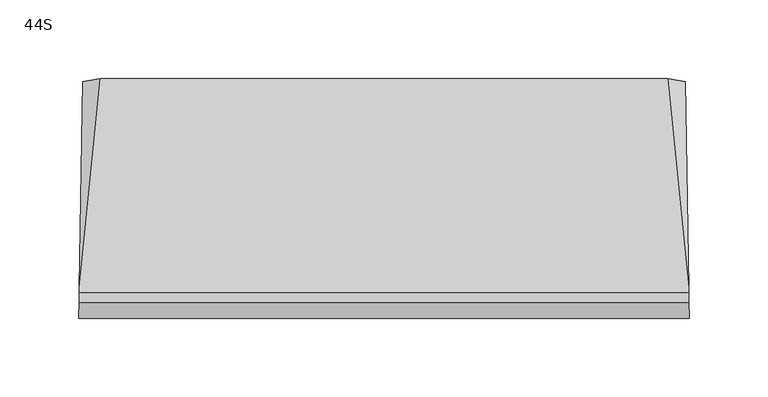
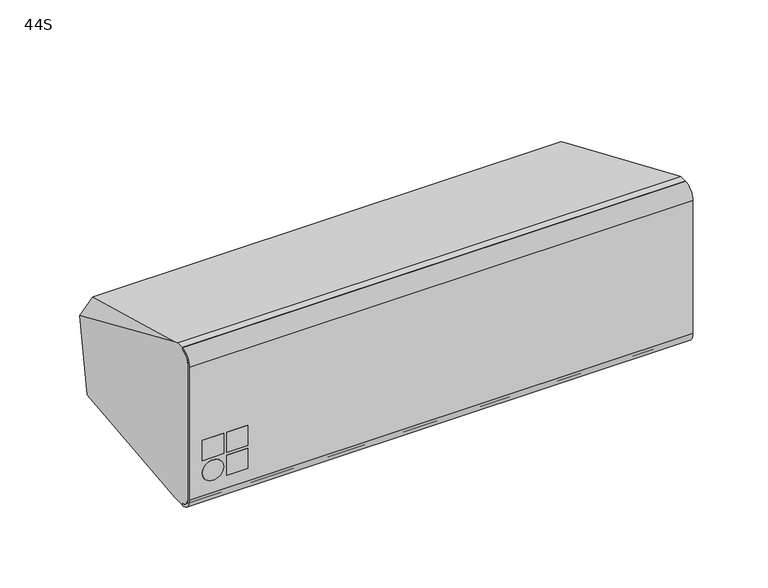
"""IFC4 building model written with IfcOpenShell, lengths in millimetres: proxy geometry, d&b xS-Series 44S Point Source : 44S."""

from ifc_helpers import new_model, si_unit, point, frame, frame_2d, origin, place, context, project, spatial, polyline, circle_curve, ellipse_curve, trimmed, segment, composite_curve, outline, extrude, source, transform, mapped, element, save
from ifc_brep_helpers import plane_surface, cylinder_surface, revolved_surface, advanced_brep


def proxy_44s_7d33e236(model_context):
    return source(origin(), model_context, "Body", "SolidModel", [
        advanced_brep(
        [(-193.2924342, -66.0, -64.0), (-193.2924342, -66.0, -62.0435242), (-193.4294708, -73.9650952, -54.078429), (-193.4294708, -73.9650952, 54.0), (-193.2918337, -65.9650952, 62.0), (-193.2918337, -65.9650952, 64.0), (-193.1898069, -60.0349048, 64.0), (-193.132384, -56.6972655, 62.7855103), (-190.8800877, 74.2148737, 4.3760941), (-191.0574064, 63.9084293, -54.074657), (-193.132384, -56.6972655, -64.0), (193.2924342, -66.0, -62.0435242), (193.2924342, -66.0, -64.0), (193.132384, -56.6972655, -64.0), (191.0574064, 63.9084293, -54.074657), (190.8800877, 74.2148737, 4.3760941), (193.132384, -56.6972655, 62.7855103), (193.1898069, -60.0349048, 64.0), (193.2918337, -65.9650952, 64.0), (193.2918337, -65.9650952, 62.0), (193.4294708, -73.9650952, 54.0), (193.4294708, -73.9650952, -54.078429), (-181.3061997, 62.1583235, -64.0), (181.3061997, 62.1583235, -64.0), (179.9289467, 76.0, 14.5000481), (-179.9289467, 76.0, 14.5000481), (-138.5, 71.3365881, -11.9474751), (-138.5, 66.8217355, -37.5524767), (-128.5, 65.0852537, -47.4005542), (-51.5, 65.0852537, -47.4005542), (-41.5, 66.8217355, -37.5524767), (-41.5, 71.3365881, -11.9474751), (-51.5, 73.0730698, -2.0993976), (-128.5, 73.0730698, -2.0993976), (-138.5, 66.4125493, -11.0792343), (-128.5, 68.1490311, -1.2311567), (-51.5, 68.1490311, -1.2311567), (-41.5, 66.4125493, -11.0792343), (-41.5, 61.8976967, -36.6842358), (-51.5, 60.1612149, -46.5323134), (-128.5, 60.1612149, -46.5323134), (-138.5, 61.8976967, -36.6842358)],
        [
            (0, 1),
            (1, 2, ellipse_curve(frame((-193.2924342, -66.0, -54.078429), z_axis=(-0.999852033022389, 0.017202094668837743, 0.0), x_axis=(-0.01720209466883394, -0.999852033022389, 0.0)), 7.9662739, 7.9650952)),
            (2, 3),
            (3, 4, ellipse_curve(frame((-193.2918337, -65.9650952, 54.0), z_axis=(-0.999852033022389, 0.017202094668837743, 0.0), x_axis=(-0.01720209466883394, -0.999852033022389, 0.0)), 8.0011839, 8.0)),
            (4, 5),
            (5, 6),
            (6, 7),
            (7, 8),
            (8, 9),
            (9, 10),
            (10, 0),
            (11, 12),
            (12, 13),
            (13, 14),
            (14, 15),
            (15, 16),
            (16, 17),
            (17, 18),
            (18, 19),
            (19, 20, ellipse_curve(frame((193.2918337, -65.9650952, 54.0), z_axis=(0.9998520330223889, 0.01720209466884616, 0.0), x_axis=(-0.017202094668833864, 0.999852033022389, 0.0)), 8.0011839, 8.0)),
            (20, 21),
            (21, 11, ellipse_curve(frame((193.2924342, -66.0, -54.078429), z_axis=(0.9998520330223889, 0.01720209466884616, 0.0), x_axis=(-0.017202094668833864, 0.999852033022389, 0.0)), 7.9662739, 7.9650952)),
            (0, 12),
            (11, 1),
            (21, 2),
            (20, 3),
            (19, 4),
            (18, 5),
            (17, 6),
            (10, 22),
            (22, 23),
            (23, 13),
            (16, 24),
            (24, 25),
            (25, 7),
            (9, 22),
            (23, 14),
            (15, 24),
            (25, 8),
            (26, 27),
            (27, 28, circle_curve(frame((-128.5, 66.8217355, -37.5524767), z_axis=(0.0, -0.9848077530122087, 0.17364817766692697), x_axis=(0.0, 0.17364817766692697, 0.9848077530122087)), 10.0)),
            (28, 29),
            (29, 30, circle_curve(frame((-51.5, 66.8217355, -37.5524767), z_axis=(0.0, -0.9848077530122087, 0.17364817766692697), x_axis=(0.0, 0.17364817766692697, 0.9848077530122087)), 10.0)),
            (30, 31),
            (31, 32, circle_curve(frame((-51.5, 71.3365881, -11.9474751), z_axis=(0.0, -0.9848077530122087, 0.17364817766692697), x_axis=(0.0, 0.17364817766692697, 0.9848077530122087)), 10.0)),
            (32, 33),
            (33, 26, circle_curve(frame((-128.5, 71.3365881, -11.9474751), z_axis=(0.0, -0.9848077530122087, 0.17364817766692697), x_axis=(0.0, 0.17364817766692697, 0.9848077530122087)), 10.0)),
            (34, 35, circle_curve(frame((-128.5, 66.4125493, -11.0792343), z_axis=(0.0, 0.9848077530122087, -0.17364817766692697), x_axis=(0.0, 0.17364817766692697, 0.9848077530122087)), 10.0)),
            (35, 36),
            (36, 37, circle_curve(frame((-51.5, 66.4125493, -11.0792343), z_axis=(0.0, 0.9848077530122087, -0.17364817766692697), x_axis=(0.0, 0.17364817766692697, 0.9848077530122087)), 10.0)),
            (37, 38),
            (38, 39, circle_curve(frame((-51.5, 61.8976967, -36.6842358), z_axis=(0.0, 0.9848077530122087, -0.17364817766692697), x_axis=(0.0, 0.17364817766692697, 0.9848077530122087)), 10.0)),
            (39, 40),
            (40, 41, circle_curve(frame((-128.5, 61.8976967, -36.6842358), z_axis=(0.0, 0.9848077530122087, -0.17364817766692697), x_axis=(0.0, 0.17364817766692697, 0.9848077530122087)), 10.0)),
            (41, 34),
            (41, 27),
            (26, 34),
            (40, 28),
            (39, 29),
            (38, 30),
            (37, 31),
            (36, 32),
            (35, 33),
        ],
        [
            plane_surface(frame((-193.8309972, -97.3033587, 100.0), z_axis=(-0.999852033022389, 0.017202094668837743, 0.0), x_axis=(0.0, 0.0, -1.0))),
            plane_surface(frame((190.7119283, 83.9889493, 100.0), z_axis=(0.9998520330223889, 0.01720209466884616, 0.0), x_axis=(0.0, 0.0, -1.0))),
            plane_surface(frame((-207.1452552, -66.0, -64.0), z_axis=(0.0, -1.0, 0.0), x_axis=(1.0, 0.0, 0.0))),
            cylinder_surface(frame((207.1452552, -66.0, -54.078429), z_axis=(-1.0, 0.0, 0.0), x_axis=(0.0, 0.0, -1.0)), 7.9650952),
            plane_surface(frame((-207.1452552, -73.9650952, -54.078429), z_axis=(0.0, -1.0, 0.0), x_axis=(1.0, 0.0, 0.0))),
            cylinder_surface(frame((207.1452552, -65.9650952, 54.0), z_axis=(-1.0, 0.0, 0.0), x_axis=(0.0, 0.0, -1.0)), 8.0),
            plane_surface(frame((-207.1452552, -65.9650952, 62.0), z_axis=(0.0, -1.0, 0.0), x_axis=(1.0, 0.0, 0.0))),
            plane_surface(frame((-207.1452552, -65.9650952, 64.0), z_axis=(0.0, 0.0, 1.0), x_axis=(1.0, 0.0, 0.0))),
            plane_surface(frame((-207.1452552, -60.0349048, -64.0), z_axis=(0.0, 0.0, -1.0), x_axis=(1.0, 0.0, 0.0))),
            plane_surface(frame((0.0, 76.0, 14.5000481), z_axis=(0.0, 0.34194264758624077, 0.939720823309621), x_axis=(-1.0, 0.0, 0.0))),
            plane_surface(frame((-186.6967137, 76.0, -57.232233), z_axis=(-0.7053631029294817, 0.07018394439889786, -0.7053631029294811), x_axis=(0.7071067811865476, 0.0, -0.7071067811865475))),
            plane_surface(frame((186.6967137, 76.0, -57.232233), z_axis=(0.7053631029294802, 0.07018394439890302, -0.7053631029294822), x_axis=(0.7071067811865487, 0.0, 0.7071067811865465))),
            plane_surface(frame((186.6967137, 76.0, 7.7322812), z_axis=(0.6719558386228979, 0.31136907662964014, 0.6719558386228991), x_axis=(-0.7071067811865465, 0.0, 0.7071067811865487))),
            plane_surface(frame((-186.6967137, 76.0, 7.7322812), z_axis=(-0.6719558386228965, 0.3113690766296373, 0.6719558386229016), x_axis=(-0.7071067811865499, 0.0, -0.7071067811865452))),
            plane_surface(frame((-250.0, 59.1151772, -81.2585403), z_axis=(0.0, 0.9848077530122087, -0.17364817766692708), x_axis=(1.0, 0.0, 0.0))),
            plane_surface(frame((-138.5, 57.2342848, -63.1317591), z_axis=(0.0, 0.9848077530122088, -0.173648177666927), x_axis=(0.0, -0.173648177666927, -0.9848077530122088))),
            plane_surface(frame((-138.5, 66.4125493, -11.0792343), z_axis=(1.0, 0.0, 0.0), x_axis=(0.0, 0.9848077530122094, -0.1736481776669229))),
            revolved_surface(polyline([(-128.5, 63.63417846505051, -26.836158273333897), (-128.5, 68.55821727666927, -27.704399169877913)]), (-128.5, 66.8217355, -37.5524767), (0.0, -0.9848077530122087, 0.17364817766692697)),
            plane_surface(frame((-128.5, 60.1612149, -46.5323134), z_axis=(0.0, 0.1736481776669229, 0.9848077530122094), x_axis=(0.0, 0.9848077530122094, -0.1736481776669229))),
            revolved_surface(polyline([(-51.5, 63.63417846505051, -26.836158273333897), (-51.5, 68.55821727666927, -27.704399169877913)]), (-51.5, 66.8217355, -37.5524767), (0.0, -0.9848077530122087, 0.17364817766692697)),
            plane_surface(frame((-41.5, 61.8976967, -36.6842358), z_axis=(-1.0, 0.0, 0.0), x_axis=(0.0, 0.9848077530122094, -0.1736481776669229))),
            revolved_surface(polyline([(-51.5, 68.1490310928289, -1.2311566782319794), (-51.5, 73.07306987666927, -2.0993975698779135)]), (-51.5, 71.3365881, -11.9474751), (0.0, -0.9848077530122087, 0.17364817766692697)),
            plane_surface(frame((-51.5, 68.1490311, -1.2311567), z_axis=(0.0, -0.1736481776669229, -0.9848077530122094), x_axis=(0.0, 0.9848077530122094, -0.1736481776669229))),
            revolved_surface(polyline([(-128.5, 68.1490310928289, -1.2311566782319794), (-128.5, 73.07306987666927, -2.0993975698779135)]), (-128.5, 71.3365881, -11.9474751), (0.0, -0.9848077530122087, 0.17364817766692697)),
        ],
        [
            (0, [[1, 2, 3, 4, 5, 6, 7, 8, 9, 10, 11]]),
            (1, [[12, 13, 14, 15, 16, 17, 18, 19, 20, 21, 22]]),
            (2, [[23, -12, 24, -1]]),
            (3, [[-24, -22, 25, -2]]),
            (4, [[-25, -21, 26, -3]]),
            (5, [[-26, -20, 27, -4]]),
            (6, [[-27, -19, 28, -5]]),
            (7, [[-28, -18, 29, -6]]),
            (8, [[-23, -11, 30, 31, 32, -13]]),
            (9, [[-29, -17, 33, 34, 35, -7]]),
            (10, [[-30, -10, 36]]),
            (11, [[-32, 37, -14]]),
            (12, [[-33, -16, 38]]),
            (13, [[-35, 39, -8]]),
            (14, [[-31, -36, -9, -39, -34, -38, -15, -37], [40, 41, 42, 43, 44, 45, 46, 47]]),
            (15, [[48, 49, 50, 51, 52, 53, 54, 55]]),
            (16, [[-55, 56, -40, 57]]),
            (17, [[-54, 58, -41, -56]]),
            (18, [[-53, 59, -42, -58]]),
            (19, [[-52, 60, -43, -59]]),
            (20, [[-51, 61, -44, -60]]),
            (21, [[-50, 62, -45, -61]]),
            (22, [[-49, 63, -46, -62]]),
            (23, [[-48, -57, -47, -63]]),
        ],
    ),
        extrude(outline(polyline([(-148.4644806, -76.0), (-164.7978139, -76.0), (-164.7978139, -71.0), (-148.4644806, -71.0), (-148.4644806, -76.0)])), frame((0.0, 0.0, -44.0), z_axis=(0.0, 0.0, 1.0), x_axis=(1.0, 0.0, 0.0)), (0.0, 0.0, 1.0), 16.3333333),
        extrude(outline(polyline([(-148.4644806, -76.0), (-164.7978139, -76.0), (-164.7978139, -71.0), (-148.4644806, -71.0), (-148.4644806, -76.0)])), frame((0.0, 0.0, -25.3333333), z_axis=(0.0, 0.0, 1.0), x_axis=(1.0, 0.0, 0.0)), (0.0, 0.0, 1.0), 16.3333333),
        extrude(outline(polyline([(-167.1311473, -76.0), (-183.4644806, -76.0), (-183.4644806, -71.0), (-167.1311473, -71.0), (-167.1311473, -76.0)])), frame((0.0, 0.0, -25.3333333), z_axis=(0.0, 0.0, 1.0), x_axis=(1.0, 0.0, 0.0)), (0.0, 0.0, 1.0), 16.3333333),
        extrude(outline(composite_curve([segment(trimmed(circle_curve(frame_2d((-35.8333333, -175.2978139)), 8.1666667), [point((-35.8333333, -183.4644806))], [point((-35.8333333, -167.1311473))], False, "CARTESIAN"), True, "CONTINUOUS"), segment(trimmed(circle_curve(frame_2d((-35.8333333, -175.2978139)), 8.1666667), [point((-35.8333333, -167.1311473))], [point((-35.8333333, -183.4644806))], False, "CARTESIAN"), True, "CONTINUOUS")], self_intersect=False)), frame((0.0, -76.0, 0.0), z_axis=(0.0, 1.0, 0.0), x_axis=(0.0, 0.0, 1.0)), (0.0, 0.0, 1.0), 5.0),
        advanced_brep(
        [(-193.4294708, -73.9650952, 54.0), (-193.4294708, -73.9650952, -54.078429), (-193.2924342, -66.0, -62.0435242), (-193.2924342, -66.0, -64.0), (-193.4644806, -76.0, -54.0), (-193.4644806, -76.0, 54.0), (-193.2918337, -65.9650952, 64.0349048), (-193.2918337, -65.9650952, 62.0), (193.4294708, -73.9650952, -54.078429), (193.4294708, -73.9650952, 54.0), (193.2918337, -65.9650952, 62.0), (193.2918337, -65.9650952, 64.0349048), (193.4644806, -76.0, 54.0), (193.4644806, -76.0, -54.0), (193.2924342, -66.0, -64.0), (193.2924342, -66.0, -62.0435242)],
        [
            (0, 1),
            (1, 2, ellipse_curve(frame((-193.2924342, -66.0, -54.078429), z_axis=(0.999852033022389, -0.017202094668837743, 0.0), x_axis=(0.01720209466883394, 0.999852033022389, 0.0)), 7.9662739, 7.9650952)),
            (2, 3),
            (3, 4, ellipse_curve(frame((-193.2924342, -66.0, -54.0), z_axis=(-0.999852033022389, 0.017202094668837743, 0.0), x_axis=(-0.01720209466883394, -0.999852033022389, 0.0)), 10.0014799, 10.0)),
            (4, 5),
            (5, 6, ellipse_curve(frame((-193.2918337, -65.9650952, 54.0), z_axis=(-0.999852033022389, 0.017202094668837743, 0.0), x_axis=(-0.01720209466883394, -0.999852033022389, 0.0)), 10.0363899, 10.0349048)),
            (6, 7),
            (7, 0, ellipse_curve(frame((-193.2918337, -65.9650952, 54.0), z_axis=(0.999852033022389, -0.017202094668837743, 0.0), x_axis=(0.01720209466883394, 0.999852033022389, 0.0)), 8.0011839, 8.0)),
            (8, 9),
            (9, 10, ellipse_curve(frame((193.2918337, -65.9650952, 54.0), z_axis=(-0.9998520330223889, -0.01720209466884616, 0.0), x_axis=(0.017202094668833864, -0.999852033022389, 0.0)), 8.0011839, 8.0)),
            (10, 11),
            (11, 12, ellipse_curve(frame((193.2918337, -65.9650952, 54.0), z_axis=(0.9998520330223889, 0.01720209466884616, 0.0), x_axis=(-0.017202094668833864, 0.999852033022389, 0.0)), 10.0363899, 10.0349048)),
            (12, 13),
            (13, 14, ellipse_curve(frame((193.2924342, -66.0, -54.0), z_axis=(0.9998520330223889, 0.01720209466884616, 0.0), x_axis=(-0.017202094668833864, 0.999852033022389, 0.0)), 10.0014799, 10.0)),
            (14, 15),
            (15, 8, ellipse_curve(frame((193.2924342, -66.0, -54.078429), z_axis=(-0.9998520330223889, -0.01720209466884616, 0.0), x_axis=(0.017202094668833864, -0.999852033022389, 0.0)), 7.9662739, 7.9650952)),
            (0, 9),
            (8, 1),
            (15, 2),
            (14, 3),
            (13, 4),
            (12, 5),
            (11, 6),
            (10, 7),
        ],
        [
            plane_surface(frame((-193.8309972, -97.3033587, 100.0), z_axis=(-0.999852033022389, 0.017202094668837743, 0.0), x_axis=(0.0, 0.0, -1.0))),
            plane_surface(frame((190.7119283, 83.9889493, 100.0), z_axis=(0.9998520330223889, 0.01720209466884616, 0.0), x_axis=(0.0, 0.0, -1.0))),
            plane_surface(frame((-202.5, -73.9650952, 54.0), z_axis=(0.0, 1.0, 0.0), x_axis=(1.0, 0.0, 0.0))),
            revolved_surface(polyline([(193.4294708, -66.0, -46.1133338), (-193.4294708, -66.0, -46.1133338)]), (202.5, -66.0, -54.078429), (1.0, 0.0, 0.0)),
            plane_surface(frame((-202.5, -66.0, -62.0435242), z_axis=(0.0, 1.0, 0.0), x_axis=(1.0, 0.0, 0.0))),
            cylinder_surface(frame((202.5, -66.0, -54.0), z_axis=(-1.0, 0.0, 0.0), x_axis=(0.0, 0.0, 1.0)), 10.0),
            plane_surface(frame((-202.5, -76.0, -54.0), z_axis=(0.0, -1.0, 0.0), x_axis=(1.0, 0.0, 0.0))),
            cylinder_surface(frame((202.5, -65.9650952, 54.0), z_axis=(-1.0, 0.0, 0.0), x_axis=(0.0, 0.0, 1.0)), 10.0349048),
            plane_surface(frame((-202.5, -65.9650952, 64.0349048), z_axis=(0.0, 1.0, 0.0), x_axis=(1.0, 0.0, 0.0))),
            revolved_surface(polyline([(193.42947082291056, -65.9650952, 62.0), (-193.42947082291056, -65.9650952, 62.0)]), (202.5, -65.9650952, 54.0), (1.0, 0.0, 0.0)),
        ],
        [
            (0, [[1, 2, 3, 4, 5, 6, 7, 8]]),
            (1, [[9, 10, 11, 12, 13, 14, 15, 16]]),
            (2, [[17, -9, 18, -1]]),
            (3, [[-18, -16, 19, -2]]),
            (4, [[-19, -15, 20, -3]]),
            (5, [[-20, -14, 21, -4]]),
            (6, [[-21, -13, 22, -5]]),
            (7, [[-22, -12, 23, -6]]),
            (8, [[-23, -11, 24, -7]]),
            (9, [[-17, -8, -24, -10]]),
        ],
    ),
    ])


if __name__ == "__main__":
    model = new_model("IFC4")
    model_context = context("Model", 3, world=origin())
    ifc_project = project(units=[si_unit("LENGTHUNIT", "METRE", prefix="MILLI")], contexts=[model_context])
    site = spatial("IfcSite", under=ifc_project)
    building = spatial("IfcBuilding", under=site)
    placement = place(None, origin())
    proxy_44s_shape = proxy_44s_7d33e236(model_context)
    element("IfcBuildingElementProxy", 1, Name="d&b xS-Series 44S Point Source : 44S", ObjectType="d&b xS-Series 44S Point Source : 44S", at=placement, inside=building, context=model_context, shape_type="MappedRepresentation", body=[
        mapped(proxy_44s_shape, transform((0.0, 0.0, 0.0), x_axis=(1.0, 0.0, 0.0), y_axis=(0.0, 1.0, 0.0), z_axis=(0.0, 0.0, 1.0))),
    ])
    save(model, "model.ifc")
